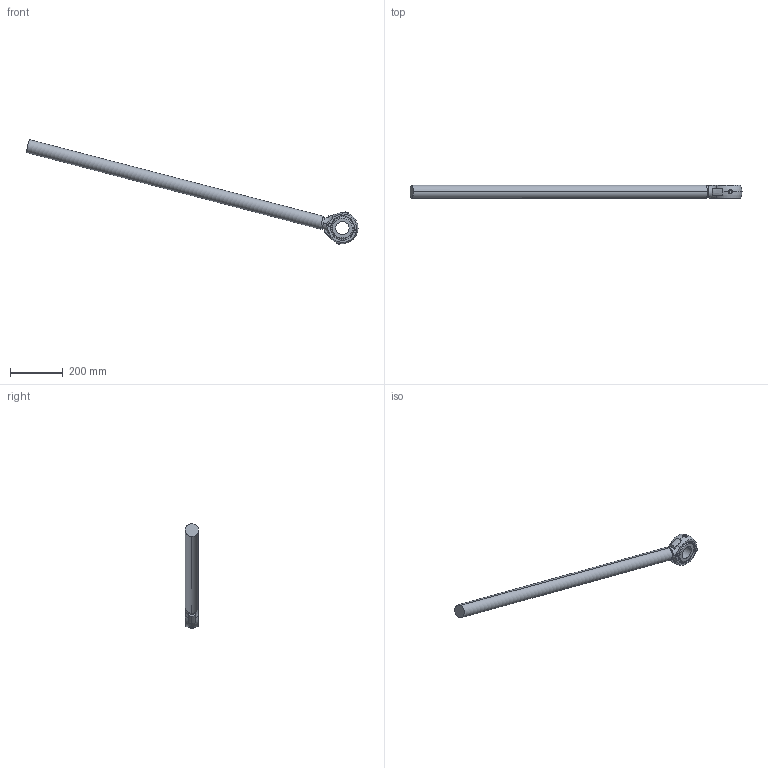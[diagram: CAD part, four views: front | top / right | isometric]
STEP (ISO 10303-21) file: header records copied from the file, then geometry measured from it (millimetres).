
FILE_DESCRIPTION (( 'STEP AP214' ), '1' );
FILE_NAME ('IRB6730S_All_OC_00_ROD_CAD.step', '2026-05-26T10:39:16', ( '' ), ( '' ), 'SwSTEP 2.0', 'SolidWorks 2024', '' );
FILE_SCHEMA (( 'AUTOMOTIVE_DESIGN' ));
Length unit declared in the file: millimetre
Products named in the file (1): IRB6730S_All_OC_00_ROD_CAD
Bounding box: 1259.38 x 51.34 x 396.87 mm (x, y, z)
Volume: 2722123.6 mm3; surface area: 229365.8 mm2
Topology: 1 solids, 1 shells, 74 faces, 194 edges, 121 vertices
Faces by surface type: plane 31, cylinder 26, cone 11, torus 4, sphere 2
Entity records: 2553 total; most frequent: CARTESIAN_POINT 608, DIRECTION 436, ORIENTED_EDGE 384, AXIS2_PLACEMENT_3D 193, EDGE_CURVE 192, VERTEX_POINT 121, CIRCLE 118, EDGE_LOOP 81
